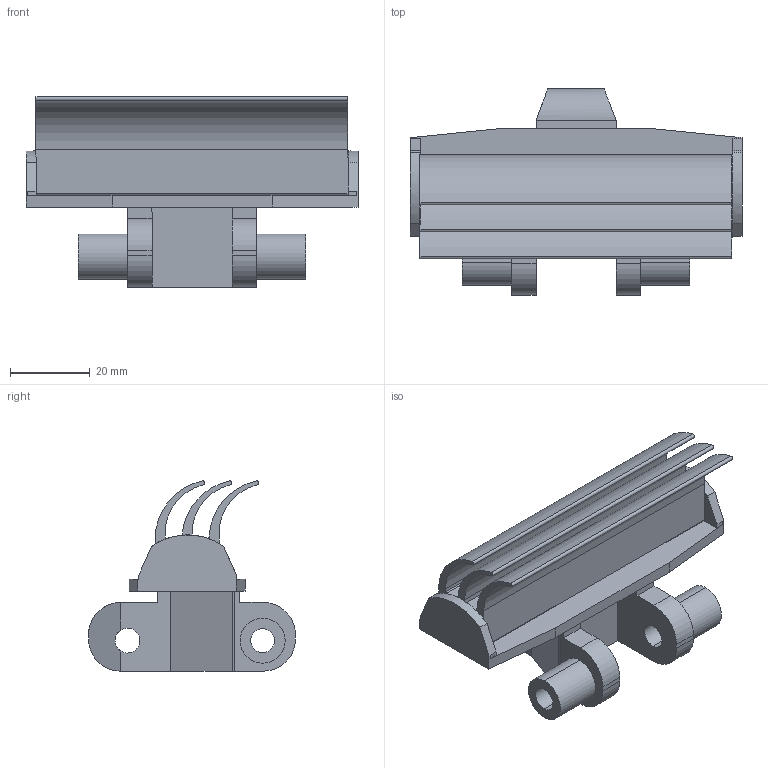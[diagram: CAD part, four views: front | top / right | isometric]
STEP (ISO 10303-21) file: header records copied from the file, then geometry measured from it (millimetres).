
FILE_DESCRIPTION (( 'STEP AP214' ), '1' );
FILE_NAME ('FMWT 5D.step', '2017-04-04T13:35:26', ( '' ), ( '' ), 'SwSTEP 2.0', 'SolidWorks 2015', '' );
FILE_SCHEMA (( 'AUTOMOTIVE_DESIGN' ));
Length unit declared in the file: millimetre
Products named in the file (1): FMWT 5D
Bounding box: 83 x 51.7 x 47.56 mm (x, y, z)
Volume: 41508.5 mm3; surface area: 27467.4 mm2
Topology: 1 solids, 2 shells, 127 faces, 348 edges, 226 vertices
Faces by surface type: plane 81, cylinder 46
Entity records: 5137 total; most frequent: CARTESIAN_POINT 720, DIRECTION 702, ORIENTED_EDGE 696, EDGE_CURVE 348, VECTOR 238, LINE 238, AXIS2_PLACEMENT_3D 232, VERTEX_POINT 226
